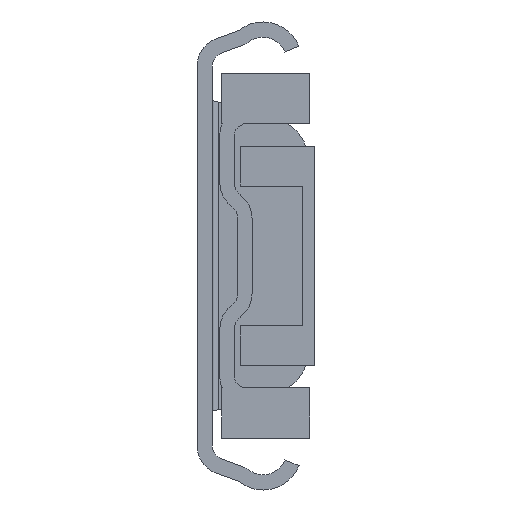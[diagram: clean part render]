
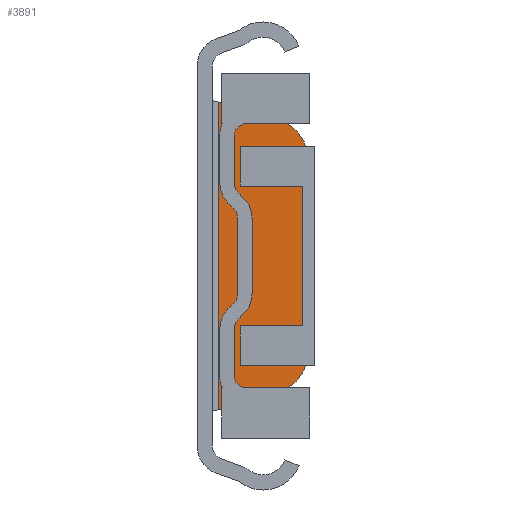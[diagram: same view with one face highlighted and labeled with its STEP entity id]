
A CAD part, front view. The second image highlights one B-rep face of the part: STEP entity #3891.
In plain terms, the highlighted planar face has unit normal (0, -1, 0).
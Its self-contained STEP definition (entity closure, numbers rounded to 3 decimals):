
#337=LINE('',#6689,#720);
#338=LINE('',#6694,#721);
#339=LINE('',#6698,#722);
#340=LINE('',#6700,#723);
#720=VECTOR('',#5538,1000.);
#721=VECTOR('',#5541,1000.);
#722=VECTOR('',#5544,1000.);
#723=VECTOR('',#5545,1000.);
#887=PLANE('',#4610);
#1735=ORIENTED_EDGE('',*,*,#2445,.F.);
#1736=ORIENTED_EDGE('',*,*,#2446,.F.);
#1737=ORIENTED_EDGE('',*,*,#2447,.F.);
#1738=ORIENTED_EDGE('',*,*,#2448,.F.);
#1739=ORIENTED_EDGE('',*,*,#2449,.F.);
#1740=ORIENTED_EDGE('',*,*,#2450,.F.);
#2445=EDGE_CURVE('',#2874,#2875,#337,.T.);
#2446=EDGE_CURVE('',#2876,#2874,#3094,.F.);
#2447=EDGE_CURVE('',#2877,#2876,#338,.T.);
#2448=EDGE_CURVE('',#2878,#2877,#3095,.F.);
#2449=EDGE_CURVE('',#2879,#2878,#339,.T.);
#2450=EDGE_CURVE('',#2875,#2879,#340,.T.);
#2874=VERTEX_POINT('',#6690);
#2875=VERTEX_POINT('',#6691);
#2876=VERTEX_POINT('',#6693);
#2877=VERTEX_POINT('',#6695);
#2878=VERTEX_POINT('',#6697);
#2879=VERTEX_POINT('',#6699);
#3094=CIRCLE('',#4611,8.);
#3095=CIRCLE('',#4612,8.);
#3327=EDGE_LOOP('',(#1735,#1736,#1737,#1738,#1739,#1740));
#3584=FACE_BOUND('',#3327,.T.);
#3891=ADVANCED_FACE('',(#3584),#887,.T.);
#4610=AXIS2_PLACEMENT_3D('',#6688,#5536,#5537);
#4611=AXIS2_PLACEMENT_3D('',#6692,#5539,#5540);
#4612=AXIS2_PLACEMENT_3D('',#6696,#5542,#5543);
#5536=DIRECTION('',(0.,-1.,0.));
#5537=DIRECTION('',(0.,0.,-1.));
#5538=DIRECTION('',(-0.966,0.,-0.259));
#5539=DIRECTION('',(0.,-1.,0.));
#5540=DIRECTION('',(0.,0.,-1.));
#5541=DIRECTION('',(0.,0.,-1.));
#5542=DIRECTION('',(0.,-1.,0.));
#5543=DIRECTION('',(0.,0.,-1.));
#5544=DIRECTION('',(0.966,0.,-0.259));
#5545=DIRECTION('',(0.,0.,1.));
#6688=CARTESIAN_POINT('',(12.9,810.3,14.965));
#6689=CARTESIAN_POINT('',(22.316,810.3,-20.174));
#6690=CARTESIAN_POINT('',(12.471,810.3,-22.812));
#6691=CARTESIAN_POINT('',(3.5,810.3,-25.216));
#6692=CARTESIAN_POINT('',(10.4,810.3,-15.085));
#6693=CARTESIAN_POINT('',(18.4,810.3,-15.085));
#6694=CARTESIAN_POINT('',(18.4,810.3,14.965));
#6695=CARTESIAN_POINT('',(18.4,810.3,15.085));
#6696=CARTESIAN_POINT('',(10.4,810.3,15.085));
#6697=CARTESIAN_POINT('',(12.471,810.3,22.812));
#6698=CARTESIAN_POINT('',(14.833,810.3,22.179));
#6699=CARTESIAN_POINT('',(3.5,810.3,25.216));
#6700=CARTESIAN_POINT('',(3.5,810.3,-25.766));
